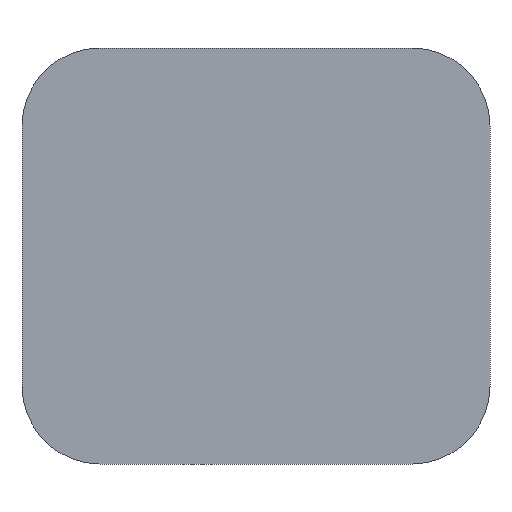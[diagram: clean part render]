
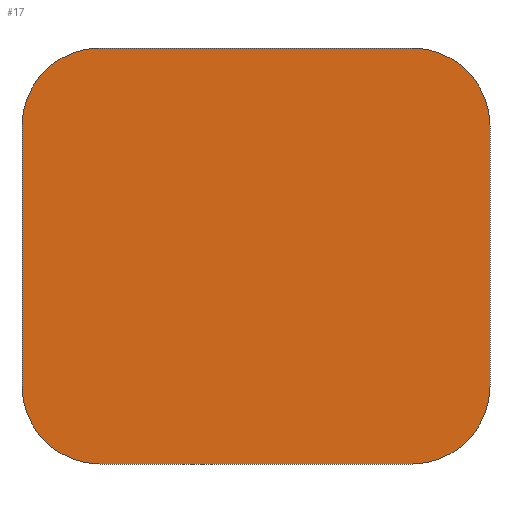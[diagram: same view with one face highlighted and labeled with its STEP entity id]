
A CAD part, left-side view. The second image highlights one B-rep face of the part: STEP entity #17.
In plain terms, the highlighted planar face has unit normal (-1, 0, 0).
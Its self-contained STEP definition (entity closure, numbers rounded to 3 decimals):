
#17 = ADVANCED_FACE('',(#18),#32,.F.);
#18 = FACE_BOUND('',#19,.F.);
#19 = EDGE_LOOP('',(#20,#55,#84,#112,#145,#173,#202,#230));
#20 = ORIENTED_EDGE('',*,*,#21,.F.);
#21 = EDGE_CURVE('',#22,#24,#26,.T.);
#22 = VERTEX_POINT('',#23);
#23 = CARTESIAN_POINT('',(89.944,-9.,10.));
#24 = VERTEX_POINT('',#25);
#25 = CARTESIAN_POINT('',(89.944,-9.,20.));
#26 = SURFACE_CURVE('',#27,(#31,#43),.PCURVE_S1.);
#27 = LINE('',#28,#29);
#28 = CARTESIAN_POINT('',(89.944,-9.,7.));
#29 = VECTOR('',#30,1.);
#30 = DIRECTION('',(0.,0.,1.));
#31 = PCURVE('',#32,#37);
#32 = PLANE('',#33);
#33 = AXIS2_PLACEMENT_3D('',#34,#35,#36);
#34 = CARTESIAN_POINT('',(89.944,-9.,7.));
#35 = DIRECTION('',(1.,0.,0.));
#36 = DIRECTION('',(0.,0.,1.));
#37 = DEFINITIONAL_REPRESENTATION('',(#38),#42);
#38 = LINE('',#39,#40);
#39 = CARTESIAN_POINT('',(0.,0.));
#40 = VECTOR('',#41,1.);
#41 = DIRECTION('',(1.,0.));
#42 = ( GEOMETRIC_REPRESENTATION_CONTEXT(2) 
PARAMETRIC_REPRESENTATION_CONTEXT() REPRESENTATION_CONTEXT('2D SPACE',''
  ) );
#43 = PCURVE('',#44,#49);
#44 = PLANE('',#45);
#45 = AXIS2_PLACEMENT_3D('',#46,#47,#48);
#46 = CARTESIAN_POINT('',(89.944,-9.,7.));
#47 = DIRECTION('',(0.,1.,0.));
#48 = DIRECTION('',(0.,0.,1.));
#49 = DEFINITIONAL_REPRESENTATION('',(#50),#54);
#50 = LINE('',#51,#52);
#51 = CARTESIAN_POINT('',(0.,0.));
#52 = VECTOR('',#53,1.);
#53 = DIRECTION('',(1.,0.));
#54 = ( GEOMETRIC_REPRESENTATION_CONTEXT(2) 
PARAMETRIC_REPRESENTATION_CONTEXT() REPRESENTATION_CONTEXT('2D SPACE',''
  ) );
#55 = ORIENTED_EDGE('',*,*,#56,.T.);
#56 = EDGE_CURVE('',#22,#57,#59,.T.);
#57 = VERTEX_POINT('',#58);
#58 = CARTESIAN_POINT('',(89.944,-6.,7.));
#59 = SURFACE_CURVE('',#60,(#65,#72),.PCURVE_S1.);
#60 = CIRCLE('',#61,3.);
#61 = AXIS2_PLACEMENT_3D('',#62,#63,#64);
#62 = CARTESIAN_POINT('',(89.944,-6.,10.));
#63 = DIRECTION('',(1.,0.,0.));
#64 = DIRECTION('',(-0.,0.,1.));
#65 = PCURVE('',#32,#66);
#66 = DEFINITIONAL_REPRESENTATION('',(#67),#71);
#67 = CIRCLE('',#68,3.);
#68 = AXIS2_PLACEMENT_2D('',#69,#70);
#69 = CARTESIAN_POINT('',(3.,-3.));
#70 = DIRECTION('',(1.,0.));
#71 = ( GEOMETRIC_REPRESENTATION_CONTEXT(2) 
PARAMETRIC_REPRESENTATION_CONTEXT() REPRESENTATION_CONTEXT('2D SPACE',''
  ) );
#72 = PCURVE('',#73,#78);
#73 = CYLINDRICAL_SURFACE('',#74,3.);
#74 = AXIS2_PLACEMENT_3D('',#75,#76,#77);
#75 = CARTESIAN_POINT('',(89.944,-6.,10.));
#76 = DIRECTION('',(1.,0.,0.));
#77 = DIRECTION('',(0.,-1.,0.));
#78 = DEFINITIONAL_REPRESENTATION('',(#79),#83);
#79 = LINE('',#80,#81);
#80 = CARTESIAN_POINT('',(-1.571,0.));
#81 = VECTOR('',#82,1.);
#82 = DIRECTION('',(1.,0.));
#83 = ( GEOMETRIC_REPRESENTATION_CONTEXT(2) 
PARAMETRIC_REPRESENTATION_CONTEXT() REPRESENTATION_CONTEXT('2D SPACE',''
  ) );
#84 = ORIENTED_EDGE('',*,*,#85,.T.);
#85 = EDGE_CURVE('',#57,#86,#88,.T.);
#86 = VERTEX_POINT('',#87);
#87 = CARTESIAN_POINT('',(89.944,6.,7.));
#88 = SURFACE_CURVE('',#89,(#93,#100),.PCURVE_S1.);
#89 = LINE('',#90,#91);
#90 = CARTESIAN_POINT('',(89.944,-9.,7.));
#91 = VECTOR('',#92,1.);
#92 = DIRECTION('',(0.,1.,0.));
#93 = PCURVE('',#32,#94);
#94 = DEFINITIONAL_REPRESENTATION('',(#95),#99);
#95 = LINE('',#96,#97);
#96 = CARTESIAN_POINT('',(0.,0.));
#97 = VECTOR('',#98,1.);
#98 = DIRECTION('',(0.,-1.));
#99 = ( GEOMETRIC_REPRESENTATION_CONTEXT(2) 
PARAMETRIC_REPRESENTATION_CONTEXT() REPRESENTATION_CONTEXT('2D SPACE',''
  ) );
#100 = PCURVE('',#101,#106);
#101 = PLANE('',#102);
#102 = AXIS2_PLACEMENT_3D('',#103,#104,#105);
#103 = CARTESIAN_POINT('',(89.944,-9.,7.));
#104 = DIRECTION('',(0.,0.,1.));
#105 = DIRECTION('',(1.,0.,0.));
#106 = DEFINITIONAL_REPRESENTATION('',(#107),#111);
#107 = LINE('',#108,#109);
#108 = CARTESIAN_POINT('',(0.,0.));
#109 = VECTOR('',#110,1.);
#110 = DIRECTION('',(0.,1.));
#111 = ( GEOMETRIC_REPRESENTATION_CONTEXT(2) 
PARAMETRIC_REPRESENTATION_CONTEXT() REPRESENTATION_CONTEXT('2D SPACE',''
  ) );
#112 = ORIENTED_EDGE('',*,*,#113,.F.);
#113 = EDGE_CURVE('',#114,#86,#116,.T.);
#114 = VERTEX_POINT('',#115);
#115 = CARTESIAN_POINT('',(89.944,9.,10.));
#116 = SURFACE_CURVE('',#117,(#122,#133),.PCURVE_S1.);
#117 = CIRCLE('',#118,3.);
#118 = AXIS2_PLACEMENT_3D('',#119,#120,#121);
#119 = CARTESIAN_POINT('',(89.944,6.,10.));
#120 = DIRECTION('',(-1.,0.,-0.));
#121 = DIRECTION('',(-0.,0.,1.));
#122 = PCURVE('',#32,#123);
#123 = DEFINITIONAL_REPRESENTATION('',(#124),#132);
#124 = ( BOUNDED_CURVE() B_SPLINE_CURVE(2,(#125,#126,#127,#128,#129,#130
,#131),.UNSPECIFIED.,.T.,.F.) B_SPLINE_CURVE_WITH_KNOTS((1,2,2,2,2,1),(
    -2.094,0.,2.094,4.189,6.283,
8.378),.UNSPECIFIED.) CURVE() GEOMETRIC_REPRESENTATION_ITEM() 
RATIONAL_B_SPLINE_CURVE((1.,0.5,1.,0.5,1.,0.5,1.)) REPRESENTATION_ITEM(
  '') );
#125 = CARTESIAN_POINT('',(6.,-15.));
#126 = CARTESIAN_POINT('',(6.,-20.196));
#127 = CARTESIAN_POINT('',(1.5,-17.598));
#128 = CARTESIAN_POINT('',(-3.,-15.));
#129 = CARTESIAN_POINT('',(1.5,-12.402));
#130 = CARTESIAN_POINT('',(6.,-9.804));
#131 = CARTESIAN_POINT('',(6.,-15.));
#132 = ( GEOMETRIC_REPRESENTATION_CONTEXT(2) 
PARAMETRIC_REPRESENTATION_CONTEXT() REPRESENTATION_CONTEXT('2D SPACE',''
  ) );
#133 = PCURVE('',#134,#139);
#134 = CYLINDRICAL_SURFACE('',#135,3.);
#135 = AXIS2_PLACEMENT_3D('',#136,#137,#138);
#136 = CARTESIAN_POINT('',(89.944,6.,10.));
#137 = DIRECTION('',(1.,0.,0.));
#138 = DIRECTION('',(-0.,1.,0.));
#139 = DEFINITIONAL_REPRESENTATION('',(#140),#144);
#140 = LINE('',#141,#142);
#141 = CARTESIAN_POINT('',(1.571,-0.));
#142 = VECTOR('',#143,1.);
#143 = DIRECTION('',(-1.,0.));
#144 = ( GEOMETRIC_REPRESENTATION_CONTEXT(2) 
PARAMETRIC_REPRESENTATION_CONTEXT() REPRESENTATION_CONTEXT('2D SPACE',''
  ) );
#145 = ORIENTED_EDGE('',*,*,#146,.T.);
#146 = EDGE_CURVE('',#114,#147,#149,.T.);
#147 = VERTEX_POINT('',#148);
#148 = CARTESIAN_POINT('',(89.944,9.,20.));
#149 = SURFACE_CURVE('',#150,(#154,#161),.PCURVE_S1.);
#150 = LINE('',#151,#152);
#151 = CARTESIAN_POINT('',(89.944,9.,7.));
#152 = VECTOR('',#153,1.);
#153 = DIRECTION('',(0.,0.,1.));
#154 = PCURVE('',#32,#155);
#155 = DEFINITIONAL_REPRESENTATION('',(#156),#160);
#156 = LINE('',#157,#158);
#157 = CARTESIAN_POINT('',(0.,-18.));
#158 = VECTOR('',#159,1.);
#159 = DIRECTION('',(1.,0.));
#160 = ( GEOMETRIC_REPRESENTATION_CONTEXT(2) 
PARAMETRIC_REPRESENTATION_CONTEXT() REPRESENTATION_CONTEXT('2D SPACE',''
  ) );
#161 = PCURVE('',#162,#167);
#162 = PLANE('',#163);
#163 = AXIS2_PLACEMENT_3D('',#164,#165,#166);
#164 = CARTESIAN_POINT('',(89.944,9.,7.));
#165 = DIRECTION('',(0.,1.,0.));
#166 = DIRECTION('',(0.,0.,1.));
#167 = DEFINITIONAL_REPRESENTATION('',(#168),#172);
#168 = LINE('',#169,#170);
#169 = CARTESIAN_POINT('',(0.,0.));
#170 = VECTOR('',#171,1.);
#171 = DIRECTION('',(1.,0.));
#172 = ( GEOMETRIC_REPRESENTATION_CONTEXT(2) 
PARAMETRIC_REPRESENTATION_CONTEXT() REPRESENTATION_CONTEXT('2D SPACE',''
  ) );
#173 = ORIENTED_EDGE('',*,*,#174,.T.);
#174 = EDGE_CURVE('',#147,#175,#177,.T.);
#175 = VERTEX_POINT('',#176);
#176 = CARTESIAN_POINT('',(89.944,6.,23.));
#177 = SURFACE_CURVE('',#178,(#183,#190),.PCURVE_S1.);
#178 = CIRCLE('',#179,3.);
#179 = AXIS2_PLACEMENT_3D('',#180,#181,#182);
#180 = CARTESIAN_POINT('',(89.944,6.,20.));
#181 = DIRECTION('',(1.,0.,0.));
#182 = DIRECTION('',(-0.,0.,1.));
#183 = PCURVE('',#32,#184);
#184 = DEFINITIONAL_REPRESENTATION('',(#185),#189);
#185 = CIRCLE('',#186,3.);
#186 = AXIS2_PLACEMENT_2D('',#187,#188);
#187 = CARTESIAN_POINT('',(13.,-15.));
#188 = DIRECTION('',(1.,0.));
#189 = ( GEOMETRIC_REPRESENTATION_CONTEXT(2) 
PARAMETRIC_REPRESENTATION_CONTEXT() REPRESENTATION_CONTEXT('2D SPACE',''
  ) );
#190 = PCURVE('',#191,#196);
#191 = CYLINDRICAL_SURFACE('',#192,3.);
#192 = AXIS2_PLACEMENT_3D('',#193,#194,#195);
#193 = CARTESIAN_POINT('',(89.944,6.,20.));
#194 = DIRECTION('',(1.,0.,0.));
#195 = DIRECTION('',(-0.,1.,0.));
#196 = DEFINITIONAL_REPRESENTATION('',(#197),#201);
#197 = LINE('',#198,#199);
#198 = CARTESIAN_POINT('',(-4.712,0.));
#199 = VECTOR('',#200,1.);
#200 = DIRECTION('',(1.,0.));
#201 = ( GEOMETRIC_REPRESENTATION_CONTEXT(2) 
PARAMETRIC_REPRESENTATION_CONTEXT() REPRESENTATION_CONTEXT('2D SPACE',''
  ) );
#202 = ORIENTED_EDGE('',*,*,#203,.F.);
#203 = EDGE_CURVE('',#204,#175,#206,.T.);
#204 = VERTEX_POINT('',#205);
#205 = CARTESIAN_POINT('',(89.944,-6.,23.));
#206 = SURFACE_CURVE('',#207,(#211,#218),.PCURVE_S1.);
#207 = LINE('',#208,#209);
#208 = CARTESIAN_POINT('',(89.944,-9.,23.));
#209 = VECTOR('',#210,1.);
#210 = DIRECTION('',(0.,1.,0.));
#211 = PCURVE('',#32,#212);
#212 = DEFINITIONAL_REPRESENTATION('',(#213),#217);
#213 = LINE('',#214,#215);
#214 = CARTESIAN_POINT('',(16.,0.));
#215 = VECTOR('',#216,1.);
#216 = DIRECTION('',(0.,-1.));
#217 = ( GEOMETRIC_REPRESENTATION_CONTEXT(2) 
PARAMETRIC_REPRESENTATION_CONTEXT() REPRESENTATION_CONTEXT('2D SPACE',''
  ) );
#218 = PCURVE('',#219,#224);
#219 = PLANE('',#220);
#220 = AXIS2_PLACEMENT_3D('',#221,#222,#223);
#221 = CARTESIAN_POINT('',(89.944,-9.,23.));
#222 = DIRECTION('',(0.,0.,1.));
#223 = DIRECTION('',(1.,0.,0.));
#224 = DEFINITIONAL_REPRESENTATION('',(#225),#229);
#225 = LINE('',#226,#227);
#226 = CARTESIAN_POINT('',(0.,0.));
#227 = VECTOR('',#228,1.);
#228 = DIRECTION('',(0.,1.));
#229 = ( GEOMETRIC_REPRESENTATION_CONTEXT(2) 
PARAMETRIC_REPRESENTATION_CONTEXT() REPRESENTATION_CONTEXT('2D SPACE',''
  ) );
#230 = ORIENTED_EDGE('',*,*,#231,.F.);
#231 = EDGE_CURVE('',#24,#204,#232,.T.);
#232 = SURFACE_CURVE('',#233,(#238,#249),.PCURVE_S1.);
#233 = CIRCLE('',#234,3.);
#234 = AXIS2_PLACEMENT_3D('',#235,#236,#237);
#235 = CARTESIAN_POINT('',(89.944,-6.,20.));
#236 = DIRECTION('',(-1.,0.,-0.));
#237 = DIRECTION('',(-0.,0.,1.));
#238 = PCURVE('',#32,#239);
#239 = DEFINITIONAL_REPRESENTATION('',(#240),#248);
#240 = ( BOUNDED_CURVE() B_SPLINE_CURVE(2,(#241,#242,#243,#244,#245,#246
,#247),.UNSPECIFIED.,.T.,.F.) B_SPLINE_CURVE_WITH_KNOTS((1,2,2,2,2,1),(
    -2.094,0.,2.094,4.189,6.283,
8.378),.UNSPECIFIED.) CURVE() GEOMETRIC_REPRESENTATION_ITEM() 
RATIONAL_B_SPLINE_CURVE((1.,0.5,1.,0.5,1.,0.5,1.)) REPRESENTATION_ITEM(
  '') );
#241 = CARTESIAN_POINT('',(16.,-3.));
#242 = CARTESIAN_POINT('',(16.,-8.196));
#243 = CARTESIAN_POINT('',(11.5,-5.598));
#244 = CARTESIAN_POINT('',(7.,-3.));
#245 = CARTESIAN_POINT('',(11.5,-0.402));
#246 = CARTESIAN_POINT('',(16.,2.196));
#247 = CARTESIAN_POINT('',(16.,-3.));
#248 = ( GEOMETRIC_REPRESENTATION_CONTEXT(2) 
PARAMETRIC_REPRESENTATION_CONTEXT() REPRESENTATION_CONTEXT('2D SPACE',''
  ) );
#249 = PCURVE('',#250,#255);
#250 = CYLINDRICAL_SURFACE('',#251,3.);
#251 = AXIS2_PLACEMENT_3D('',#252,#253,#254);
#252 = CARTESIAN_POINT('',(89.944,-6.,20.));
#253 = DIRECTION('',(1.,0.,0.));
#254 = DIRECTION('',(0.,-1.,0.));
#255 = DEFINITIONAL_REPRESENTATION('',(#256),#260);
#256 = LINE('',#257,#258);
#257 = CARTESIAN_POINT('',(4.712,-0.));
#258 = VECTOR('',#259,1.);
#259 = DIRECTION('',(-1.,0.));
#260 = ( GEOMETRIC_REPRESENTATION_CONTEXT(2) 
PARAMETRIC_REPRESENTATION_CONTEXT() REPRESENTATION_CONTEXT('2D SPACE',''
  ) );
